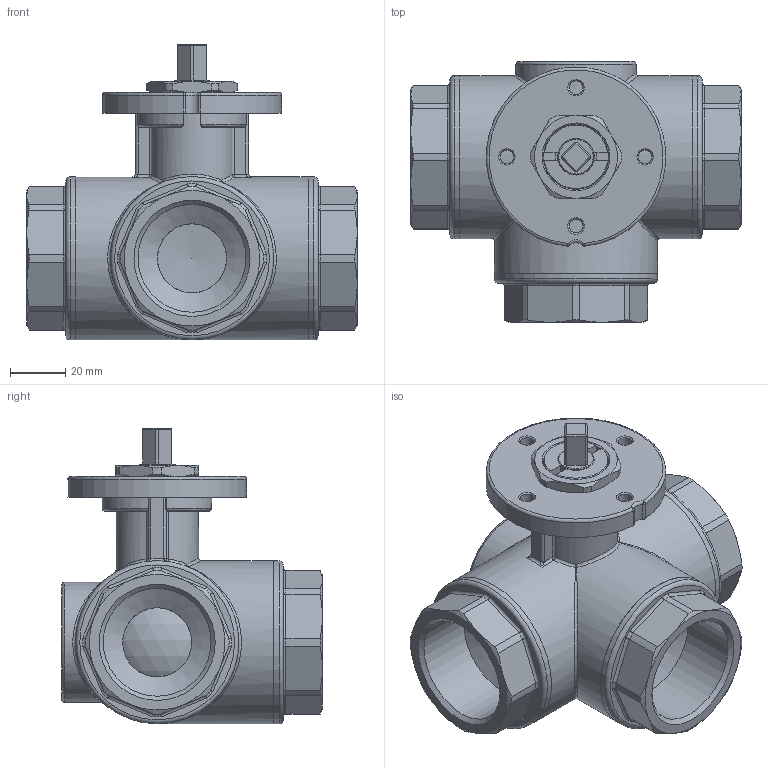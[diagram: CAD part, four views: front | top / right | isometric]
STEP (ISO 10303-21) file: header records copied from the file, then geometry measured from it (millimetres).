
FILE_DESCRIPTION((''),'2;1');
FILE_NAME('C:\Documents and Settings\ut4\Desktop\TICOM 16-07-2012\Art.92 PM SM 114.stp','2012-07-16T13:55:29',('ut4'),(''),'Autodesk Inventor 2013','Autodesk Inventor 2013','');
FILE_SCHEMA(('AUTOMOTIVE_DESIGN { 1 0 10303 214 1 1 1 1 }'));
Length unit declared in the file: millimetre
Products named in the file (13): Art.92 PM SM 114; Corpo 3v mot. 114; Sede 3vie 114 mot; O-ring 28.17 x 3; Manic. 3vie 114; Sfera 3v L 114; Perno mot. 20 q8; Anello antigrip. perno mot. Ø20; O-ring 15.08 x 2; Boccola antigrip. perno mot. Ø20; Ghiera ferma asta mot. 25; Dado blocca piastra SM3; Dischetto portamotore SM Ø25 lav
Assembly tree (21 placements, depth 2):
  Art.92 PM SM 114
    Corpo 3v mot. 114
    Sede 3vie 114 mot  x4
    O-ring 28.17 x 3  x4
    Manic. 3vie 114  x3
    Sfera 3v L 114
    Perno mot. 20 q8
    Anello antigrip. perno mot. Ø20
    O-ring 15.08 x 2  x2
    Boccola antigrip. perno mot. Ø20
    Ghiera ferma asta mot. 25
    Dado blocca piastra SM3
    Dischetto portamotore SM Ø25 lav
Bounding box: 119.6 x 94.4 x 107 mm (x, y, z)
Volume: 277991.7 mm3; surface area: 129974.8 mm2
Topology: 21 solids, 21 shells, 703 faces, 1662 edges, 1012 vertices
Faces by surface type: plane 268, cylinder 203, cone 81, torus 76, bspline 50, sphere 25
Full cylindrical faces by diameter (mm): 4.917 x4, 13 x1, 13.2 x2, 14.8 x1, 15.1 x1, 16 x1, 16.1 x2, 16.3 x2, 19.9 x3, 20 x2, 20.1 x1, 23 x1, 23.5 x2, 25 x11, 28 x4, 35.5 x7, 36 x1, 39 x3, 40.3 x3, 43.5 x1, 50.5 x3, 52 x3, 52.5 x3, 59 x5
Entity records: 17733 total; most frequent: CARTESIAN_POINT 4533, DIRECTION 2592, ORIENTED_EDGE 2474, EDGE_CURVE 1237, AXIS2_PLACEMENT_3D 1001, VERTEX_POINT 811, EDGE_LOOP 704, VECTOR 590
